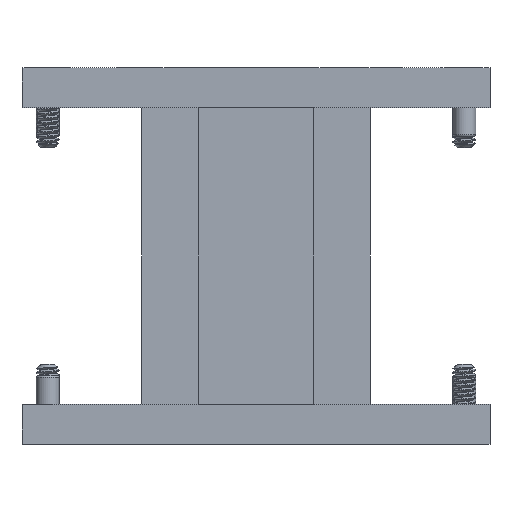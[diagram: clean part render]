
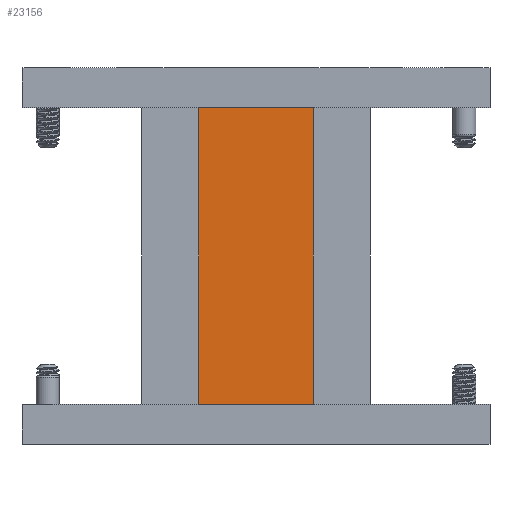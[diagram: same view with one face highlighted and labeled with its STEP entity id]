
A CAD part, front view. The second image highlights one B-rep face of the part: STEP entity #23156.
In plain terms, the highlighted planar face has unit normal (0, -1, 0).
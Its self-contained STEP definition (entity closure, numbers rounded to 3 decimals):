
#1255 = VECTOR ( 'NONE', #11182, 1000. ) ;
#2520 = ORIENTED_EDGE ( 'NONE', *, *, #19813, .T. ) ;
#2718 = CARTESIAN_POINT ( 'NONE',  ( 13.15, 11.227, 18.206 ) ) ;
#5519 = PLANE ( 'NONE',  #9617 ) ;
#5826 = DIRECTION ( 'NONE',  ( 0., 0., 1. ) ) ;
#6382 = LINE ( 'NONE', #26044, #1255 ) ;
#6790 = VERTEX_POINT ( 'NONE', #18115 ) ;
#6878 = VECTOR ( 'NONE', #24481, 1000. ) ;
#7465 = EDGE_CURVE ( 'NONE', #9059, #14966, #11634, .T. ) ;
#7919 = CARTESIAN_POINT ( 'NONE',  ( -6.85, 11.227, 18.206 ) ) ;
#7929 = DIRECTION ( 'NONE',  ( 0., 0., 1. ) ) ;
#8035 = DIRECTION ( 'NONE',  ( 0., 1., 0. ) ) ;
#8356 = CARTESIAN_POINT ( 'NONE',  ( -6.85, 11.227, 18.206 ) ) ;
#9059 = VERTEX_POINT ( 'NONE', #13459 ) ;
#9617 = AXIS2_PLACEMENT_3D ( 'NONE', #23196, #8035, #7929 ) ;
#10069 = ORIENTED_EDGE ( 'NONE', *, *, #24430, .T. ) ;
#11086 = VERTEX_POINT ( 'NONE', #7919 ) ;
#11182 = DIRECTION ( 'NONE',  ( 1., 0., 0. ) ) ;
#11338 = CARTESIAN_POINT ( 'NONE',  ( 13.15, 11.227, 70.206 ) ) ;
#11634 = LINE ( 'NONE', #29919, #6878 ) ;
#12724 = DIRECTION ( 'NONE',  ( 0., 0., 1. ) ) ;
#13459 = CARTESIAN_POINT ( 'NONE',  ( -6.85, 11.227, 70.206 ) ) ;
#13757 = FACE_OUTER_BOUND ( 'NONE', #14751, .T. ) ;
#14751 = EDGE_LOOP ( 'NONE', ( #2520, #10069, #28732, #23661 ) ) ;
#14966 = VERTEX_POINT ( 'NONE', #11338 ) ;
#15652 = EDGE_CURVE ( 'NONE', #11086, #9059, #19055, .T. ) ;
#18115 = CARTESIAN_POINT ( 'NONE',  ( 13.15, 11.227, 18.206 ) ) ;
#19055 = LINE ( 'NONE', #8356, #23320 ) ;
#19813 = EDGE_CURVE ( 'NONE', #11086, #6790, #6382, .T. ) ;
#23156 = ADVANCED_FACE ( 'NONE', ( #13757 ), #5519, .F. ) ;
#23196 = CARTESIAN_POINT ( 'NONE',  ( -16.85, 11.227, 70.206 ) ) ;
#23320 = VECTOR ( 'NONE', #5826, 1000. ) ;
#23661 = ORIENTED_EDGE ( 'NONE', *, *, #15652, .F. ) ;
#23705 = LINE ( 'NONE', #2718, #31927 ) ;
#24430 = EDGE_CURVE ( 'NONE', #6790, #14966, #23705, .T. ) ;
#24481 = DIRECTION ( 'NONE',  ( 1., 0., 0. ) ) ;
#26044 = CARTESIAN_POINT ( 'NONE',  ( -16.85, 11.227, 18.206 ) ) ;
#28732 = ORIENTED_EDGE ( 'NONE', *, *, #7465, .F. ) ;
#29919 = CARTESIAN_POINT ( 'NONE',  ( -16.85, 11.227, 70.206 ) ) ;
#31927 = VECTOR ( 'NONE', #12724, 1000. ) ;
